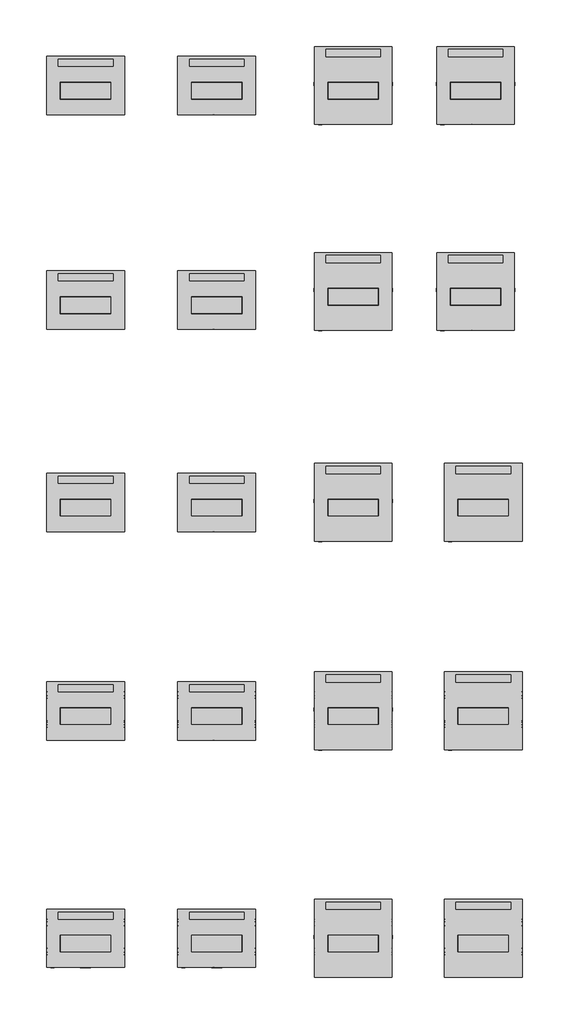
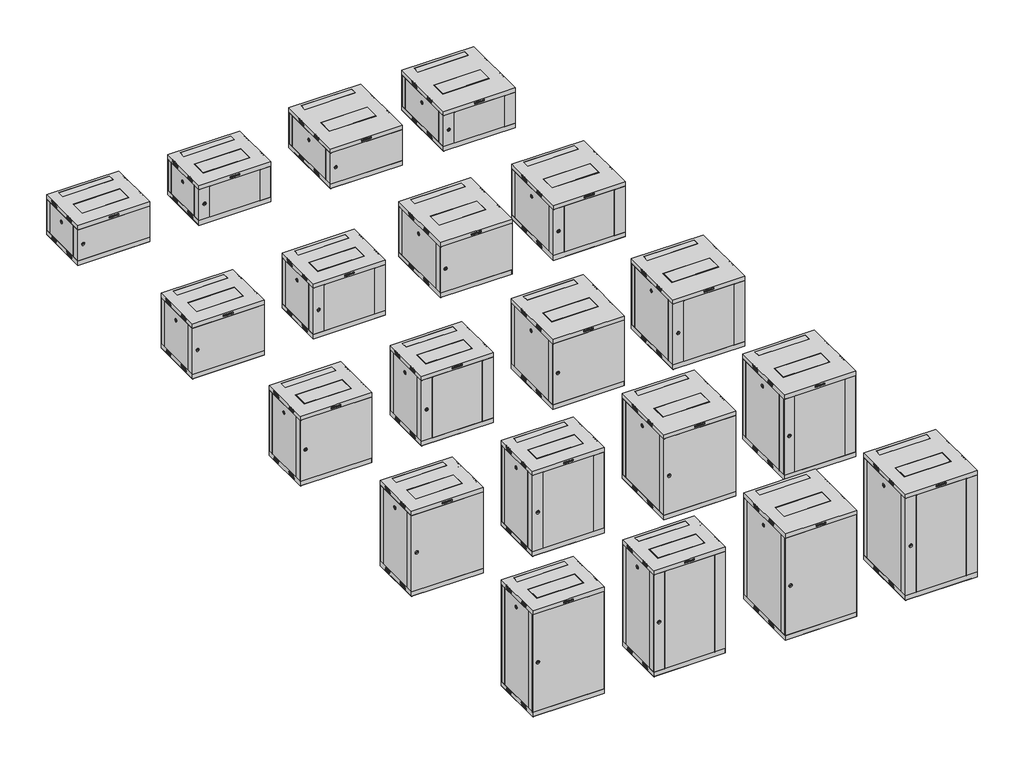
# One storey: 20 proxies.
"""IFC4 building model written with IfcOpenShell, lengths in millimetres."""

from ifc_helpers import new_model, si_unit, origin, place, context, project, spatial, transform, mapped, element, save
from components import proxy_1_32729e6a, proxy_1_935bc356, proxy_1_dae487cf, proxy_1_e7a79305, proxy_1_51f37a2a, proxy_1_433dcf03, proxy_1_57a666f4, proxy_1_a4bd9ef0, proxy_1_876da3fd, proxy_1_7a480675, proxy_1_70eedf67, proxy_1_b26e7d1d, proxy_1_5992bfdd, proxy_1_c254fbed, proxy_1_63ddd125, proxy_1_154220bf, proxy_1_e45873d3, proxy_1_0199d2f3, proxy_1_868d94a2, proxy_1_adbcd2c0, proxy_1_e2e02f15, proxy_1_e55c0a81, proxy_1_a0e742fd, proxy_1_d2b752e0, proxy_1_6b43263f, proxy_1_fa444788, proxy_1_4c299d8e, proxy_1_6cf0ba76, proxy_1_220757b3, proxy_1_0866ba5f, proxy_1_d8c2c919, proxy_1_49b35c16, proxy_1_970add65, proxy_1_ad02ab2c, proxy_1_61d2d121, proxy_1_24a5b86d, proxy_1_d1b3fc70, proxy_1_1176372e, proxy_1_97165bea, proxy_1_086fdbe6, proxy_1_53d06270, proxy_1_87e82789, proxy_1_bff867b1, proxy_1_363f3566, proxy_1_fbcb8cc0, proxy_1_44ba977f, proxy_1_5aa67179, proxy_1_f0d522ef, proxy_1_fc4ee2fe, proxy_1_55a6360b, proxy_1_bb6865f0, proxy_1_869947a7

model = new_model("IFC4")

# Units and contexts
model_context = context("Model", 3, world=origin())
ifc_project = project(units=[si_unit("LENGTHUNIT", "METRE", prefix="MILLI")], contexts=[model_context])

# Site, building, storey
site = spatial("IfcSite", under=ifc_project)
building = spatial("IfcBuilding", under=site)
storey = spatial("IfcBuildingStorey", under=building, Name="Уровень 1", Elevation=0.0)

# Proxies
placement = place(None, origin())
proxy_1_shape = proxy_1_32729e6a(model_context)
proxy_1_2_shape = proxy_1_935bc356(model_context)
proxy_1_3_shape = proxy_1_dae487cf(model_context)
proxy_1_4_shape = proxy_1_e7a79305(model_context)
element("IfcBuildingElementProxy", 1, Name="1 : 6U 450мм стеклянная дверь", ObjectType="1 : 6U 450мм стеклянная дверь", at=placement, inside=storey, context=model_context, shape_type="MappedRepresentation", body=[
    mapped(proxy_1_shape, transform((-16851.4008887, 12894.6541422, 0.0), x_axis=(1.0, 0.0, 0.0), y_axis=(0.0, 1.0, 0.0), z_axis=(0.0, 0.0, 1.0))),
    mapped(proxy_1_2_shape, transform((-16851.4008887, 12894.6541422, 0.0), x_axis=(1.0, 0.0, 0.0), y_axis=(0.0, 1.0, 0.0), z_axis=(0.0, 0.0, 1.0))),
    mapped(proxy_1_3_shape, transform((-16851.4008887, 12894.6541422, 0.0), x_axis=(1.0, 0.0, 0.0), y_axis=(0.0, 1.0, 0.0), z_axis=(0.0, 0.0, 1.0))),
    mapped(proxy_1_4_shape, transform((-16851.4008887, 12894.6541422, 0.0), x_axis=(1.0, 0.0, 0.0), y_axis=(0.0, 1.0, 0.0), z_axis=(0.0, 0.0, 1.0))),
])
proxy_1_5_shape = proxy_1_51f37a2a(model_context)
proxy_1_6_shape = proxy_1_433dcf03(model_context)
proxy_1_7_shape = proxy_1_57a666f4(model_context)
element("IfcBuildingElementProxy", 2, Name="1 : 9U 450мм стеклянная дверь", ObjectType="1 : 9U 450мм стеклянная дверь", at=placement, inside=storey, context=model_context, shape_type="MappedRepresentation", body=[
    mapped(proxy_1_5_shape, transform((-16851.4008887, 11238.6763632, 0.0), x_axis=(1.0, 0.0, 0.0), y_axis=(0.0, 1.0, 0.0), z_axis=(0.0, 0.0, 1.0))),
    mapped(proxy_1_2_shape, transform((-16851.4008887, 11238.6763632, 0.0), x_axis=(1.0, 0.0, 0.0), y_axis=(0.0, 1.0, 0.0), z_axis=(0.0, 0.0, 1.0))),
    mapped(proxy_1_6_shape, transform((-16851.4008887, 11238.6763632, 0.0), x_axis=(1.0, 0.0, 0.0), y_axis=(0.0, 1.0, 0.0), z_axis=(0.0, 0.0, 1.0))),
    mapped(proxy_1_7_shape, transform((-16851.4008887, 11238.6763632, 0.0), x_axis=(1.0, 0.0, 0.0), y_axis=(0.0, 1.0, 0.0), z_axis=(0.0, 0.0, 1.0))),
])
proxy_1_8_shape = proxy_1_a4bd9ef0(model_context)
proxy_1_9_shape = proxy_1_876da3fd(model_context)
proxy_1_10_shape = proxy_1_7a480675(model_context)
element("IfcBuildingElementProxy", 3, Name="1 : 12U 450мм стеклянная дверь", ObjectType="1 : 12U 450мм стеклянная дверь", at=placement, inside=storey, context=model_context, shape_type="MappedRepresentation", body=[
    mapped(proxy_1_8_shape, transform((-16851.4008887, 9676.9744074, 0.0), x_axis=(1.0, 0.0, 0.0), y_axis=(0.0, 1.0, 0.0), z_axis=(0.0, 0.0, 1.0))),
    mapped(proxy_1_2_shape, transform((-16851.4008887, 9676.9744074, 0.0), x_axis=(1.0, 0.0, 0.0), y_axis=(0.0, 1.0, 0.0), z_axis=(0.0, 0.0, 1.0))),
    mapped(proxy_1_9_shape, transform((-16851.4008887, 9676.9744074, 0.0), x_axis=(1.0, 0.0, 0.0), y_axis=(0.0, 1.0, 0.0), z_axis=(0.0, 0.0, 1.0))),
    mapped(proxy_1_10_shape, transform((-16851.4008887, 9676.9744074, 0.0), x_axis=(1.0, 0.0, 0.0), y_axis=(0.0, 1.0, 0.0), z_axis=(0.0, 0.0, 1.0))),
])
proxy_1_11_shape = proxy_1_70eedf67(model_context)
proxy_1_12_shape = proxy_1_b26e7d1d(model_context)
proxy_1_13_shape = proxy_1_5992bfdd(model_context)
element("IfcBuildingElementProxy", 4, Name="1 : 15U 450мм стеклянная дверь", ObjectType="1 : 15U 450мм стеклянная дверь", at=placement, inside=storey, context=model_context, shape_type="MappedRepresentation", body=[
    mapped(proxy_1_11_shape, transform((-16851.4008887, 8067.9532801, 0.0), x_axis=(1.0, 0.0, 0.0), y_axis=(0.0, 1.0, 0.0), z_axis=(0.0, 0.0, 1.0))),
    mapped(proxy_1_2_shape, transform((-16851.4008887, 8067.9532801, 0.0), x_axis=(1.0, 0.0, 0.0), y_axis=(0.0, 1.0, 0.0), z_axis=(0.0, 0.0, 1.0))),
    mapped(proxy_1_12_shape, transform((-16851.4008887, 8067.9532801, 0.0), x_axis=(1.0, 0.0, 0.0), y_axis=(0.0, 1.0, 0.0), z_axis=(0.0, 0.0, 1.0))),
    mapped(proxy_1_13_shape, transform((-16851.4008887, 8067.9532801, 0.0), x_axis=(1.0, 0.0, 0.0), y_axis=(0.0, 1.0, 0.0), z_axis=(0.0, 0.0, 1.0))),
])
proxy_1_14_shape = proxy_1_c254fbed(model_context)
proxy_1_15_shape = proxy_1_63ddd125(model_context)
proxy_1_16_shape = proxy_1_154220bf(model_context)
element("IfcBuildingElementProxy", 5, Name="1 : 18U 450мм стеклянная дверь", ObjectType="1 : 18U 450мм стеклянная дверь", at=placement, inside=storey, context=model_context, shape_type="MappedRepresentation", body=[
    mapped(proxy_1_14_shape, transform((-16851.4008887, 6312.8896212, 0.0), x_axis=(1.0, 0.0, 0.0), y_axis=(0.0, 1.0, 0.0), z_axis=(0.0, 0.0, 1.0))),
    mapped(proxy_1_2_shape, transform((-16851.4008887, 6312.8896212, 0.0), x_axis=(1.0, 0.0, 0.0), y_axis=(0.0, 1.0, 0.0), z_axis=(0.0, 0.0, 1.0))),
    mapped(proxy_1_15_shape, transform((-16851.4008887, 6312.8896212, 0.0), x_axis=(1.0, 0.0, 0.0), y_axis=(0.0, 1.0, 0.0), z_axis=(0.0, 0.0, 1.0))),
    mapped(proxy_1_16_shape, transform((-16851.4008887, 6312.8896212, 0.0), x_axis=(1.0, 0.0, 0.0), y_axis=(0.0, 1.0, 0.0), z_axis=(0.0, 0.0, 1.0))),
])
proxy_1_17_shape = proxy_1_e45873d3(model_context)
proxy_1_18_shape = proxy_1_0199d2f3(model_context)
proxy_1_19_shape = proxy_1_868d94a2(model_context)
proxy_1_20_shape = proxy_1_adbcd2c0(model_context)
element("IfcBuildingElementProxy", 6, Name="1 : 9U 600мм стеклянная дверь", ObjectType="1 : 9U 600мм стеклянная дверь", at=placement, inside=storey, context=model_context, shape_type="MappedRepresentation", body=[
    mapped(proxy_1_17_shape, transform((-14852.0101286, 11305.0593321, 0.0), x_axis=(1.0, 0.0, 0.0), y_axis=(0.0, 1.0, 0.0), z_axis=(0.0, 0.0, 1.0))),
    mapped(proxy_1_18_shape, transform((-14852.0101286, 11305.0593321, 0.0), x_axis=(1.0, 0.0, 0.0), y_axis=(0.0, 1.0, 0.0), z_axis=(0.0, 0.0, 1.0))),
    mapped(proxy_1_19_shape, transform((-14852.0101286, 11305.0593321, 0.0), x_axis=(1.0, 0.0, 0.0), y_axis=(0.0, 1.0, 0.0), z_axis=(0.0, 0.0, 1.0))),
    mapped(proxy_1_20_shape, transform((-14852.0101286, 11305.0593321, 0.0), x_axis=(1.0, 0.0, 0.0), y_axis=(0.0, 1.0, 0.0), z_axis=(0.0, 0.0, 1.0))),
])
proxy_1_21_shape = proxy_1_e2e02f15(model_context)
proxy_1_22_shape = proxy_1_e55c0a81(model_context)
proxy_1_23_shape = proxy_1_a0e742fd(model_context)
element("IfcBuildingElementProxy", 7, Name="1 : 6U 600мм стеклянная дверь", ObjectType="1 : 6U 600мм стеклянная дверь", at=placement, inside=storey, context=model_context, shape_type="MappedRepresentation", body=[
    mapped(proxy_1_21_shape, transform((-14852.0101286, 12894.6541422, 0.0), x_axis=(1.0, 0.0, 0.0), y_axis=(0.0, 1.0, 0.0), z_axis=(0.0, 0.0, 1.0))),
    mapped(proxy_1_18_shape, transform((-14852.0101286, 12894.6541422, 0.0), x_axis=(1.0, 0.0, 0.0), y_axis=(0.0, 1.0, 0.0), z_axis=(0.0, 0.0, 1.0))),
    mapped(proxy_1_22_shape, transform((-14852.0101286, 12894.6541422, 0.0), x_axis=(1.0, 0.0, 0.0), y_axis=(0.0, 1.0, 0.0), z_axis=(0.0, 0.0, 1.0))),
    mapped(proxy_1_23_shape, transform((-14852.0101286, 12894.6541422, 0.0), x_axis=(1.0, 0.0, 0.0), y_axis=(0.0, 1.0, 0.0), z_axis=(0.0, 0.0, 1.0))),
])
proxy_1_24_shape = proxy_1_d2b752e0(model_context)
proxy_1_25_shape = proxy_1_6b43263f(model_context)
proxy_1_26_shape = proxy_1_fa444788(model_context)
element("IfcBuildingElementProxy", 8, Name="1 : 12U 600мм стеклянная дверь", ObjectType="1 : 12U 600мм стеклянная дверь", at=placement, inside=storey, context=model_context, shape_type="MappedRepresentation", body=[
    mapped(proxy_1_24_shape, transform((-14792.2654566, 9676.9744074, 0.0), x_axis=(1.0, 0.0, 0.0), y_axis=(0.0, 1.0, 0.0), z_axis=(0.0, 0.0, 1.0))),
    mapped(proxy_1_18_shape, transform((-14792.2654566, 9676.9744074, 0.0), x_axis=(1.0, 0.0, 0.0), y_axis=(0.0, 1.0, 0.0), z_axis=(0.0, 0.0, 1.0))),
    mapped(proxy_1_25_shape, transform((-14792.2654566, 9676.9744074, 0.0), x_axis=(1.0, 0.0, 0.0), y_axis=(0.0, 1.0, 0.0), z_axis=(0.0, 0.0, 1.0))),
    mapped(proxy_1_26_shape, transform((-14792.2654566, 9676.9744074, 0.0), x_axis=(1.0, 0.0, 0.0), y_axis=(0.0, 1.0, 0.0), z_axis=(0.0, 0.0, 1.0))),
])
proxy_1_27_shape = proxy_1_4c299d8e(model_context)
proxy_1_28_shape = proxy_1_6cf0ba76(model_context)
proxy_1_29_shape = proxy_1_220757b3(model_context)
element("IfcBuildingElementProxy", 9, Name="1 : 15U 600мм стеклянная дверь", ObjectType="1 : 15U 600мм стеклянная дверь", at=placement, inside=storey, context=model_context, shape_type="MappedRepresentation", body=[
    mapped(proxy_1_27_shape, transform((-14792.2654566, 8067.9532801, 0.0), x_axis=(1.0, 0.0, 0.0), y_axis=(0.0, 1.0, 0.0), z_axis=(0.0, 0.0, 1.0))),
    mapped(proxy_1_18_shape, transform((-14792.2654566, 8067.9532801, 0.0), x_axis=(1.0, 0.0, 0.0), y_axis=(0.0, 1.0, 0.0), z_axis=(0.0, 0.0, 1.0))),
    mapped(proxy_1_28_shape, transform((-14792.2654566, 8067.9532801, 0.0), x_axis=(1.0, 0.0, 0.0), y_axis=(0.0, 1.0, 0.0), z_axis=(0.0, 0.0, 1.0))),
    mapped(proxy_1_29_shape, transform((-14792.2654566, 8067.9532801, 0.0), x_axis=(1.0, 0.0, 0.0), y_axis=(0.0, 1.0, 0.0), z_axis=(0.0, 0.0, 1.0))),
])
proxy_1_30_shape = proxy_1_0866ba5f(model_context)
proxy_1_31_shape = proxy_1_d8c2c919(model_context)
proxy_1_32_shape = proxy_1_49b35c16(model_context)
element("IfcBuildingElementProxy", 10, Name="1 : 18U 600мм стеклянная дверь", ObjectType="1 : 18U 600мм стеклянная дверь", at=placement, inside=storey, context=model_context, shape_type="MappedRepresentation", body=[
    mapped(proxy_1_30_shape, transform((-14792.2654566, 6312.8896212, 0.0), x_axis=(1.0, 0.0, 0.0), y_axis=(0.0, 1.0, 0.0), z_axis=(0.0, 0.0, 1.0))),
    mapped(proxy_1_18_shape, transform((-14792.2654566, 6312.8896212, 0.0), x_axis=(1.0, 0.0, 0.0), y_axis=(0.0, 1.0, 0.0), z_axis=(0.0, 0.0, 1.0))),
    mapped(proxy_1_31_shape, transform((-14792.2654566, 6312.8896212, 0.0), x_axis=(1.0, 0.0, 0.0), y_axis=(0.0, 1.0, 0.0), z_axis=(0.0, 0.0, 1.0))),
    mapped(proxy_1_32_shape, transform((-14792.2654566, 6312.8896212, 0.0), x_axis=(1.0, 0.0, 0.0), y_axis=(0.0, 1.0, 0.0), z_axis=(0.0, 0.0, 1.0))),
])
proxy_1_33_shape = proxy_1_970add65(model_context)
proxy_1_34_shape = proxy_1_ad02ab2c(model_context)
element("IfcBuildingElementProxy", 11, Name="1 : 12U 450мм металлическая дверь", ObjectType="1 : 12U 450мм металлическая дверь", at=placement, inside=storey, context=model_context, shape_type="MappedRepresentation", body=[
    mapped(proxy_1_33_shape, transform((-17863.6249665, 9676.9744074, 0.0), x_axis=(1.0, 0.0, 0.0), y_axis=(0.0, 1.0, 0.0), z_axis=(0.0, 0.0, 1.0))),
    mapped(proxy_1_2_shape, transform((-17863.6249665, 9676.9744074, 0.0), x_axis=(1.0, 0.0, 0.0), y_axis=(0.0, 1.0, 0.0), z_axis=(0.0, 0.0, 1.0))),
    mapped(proxy_1_9_shape, transform((-17863.6249665, 9676.9744074, 0.0), x_axis=(1.0, 0.0, 0.0), y_axis=(0.0, 1.0, 0.0), z_axis=(0.0, 0.0, 1.0))),
    mapped(proxy_1_34_shape, transform((-17863.6249665, 9676.9744074, 0.0), x_axis=(1.0, 0.0, 0.0), y_axis=(0.0, 1.0, 0.0), z_axis=(0.0, 0.0, 1.0))),
])
proxy_1_35_shape = proxy_1_61d2d121(model_context)
proxy_1_36_shape = proxy_1_24a5b86d(model_context)
element("IfcBuildingElementProxy", 12, Name="1 : 12U 600мм металлическая дверь", ObjectType="1 : 12U 600мм металлическая дверь", at=placement, inside=storey, context=model_context, shape_type="MappedRepresentation", body=[
    mapped(proxy_1_35_shape, transform((-15796.5939819, 9676.9744074, 0.0), x_axis=(1.0, 0.0, 0.0), y_axis=(0.0, 1.0, 0.0), z_axis=(0.0, 0.0, 1.0))),
    mapped(proxy_1_18_shape, transform((-15796.5939819, 9676.9744074, 0.0), x_axis=(1.0, 0.0, 0.0), y_axis=(0.0, 1.0, 0.0), z_axis=(0.0, 0.0, 1.0))),
    mapped(proxy_1_25_shape, transform((-15796.5939819, 9676.9744074, 0.0), x_axis=(1.0, 0.0, 0.0), y_axis=(0.0, 1.0, 0.0), z_axis=(0.0, 0.0, 1.0))),
    mapped(proxy_1_36_shape, transform((-15796.5939819, 9676.9744074, 0.0), x_axis=(1.0, 0.0, 0.0), y_axis=(0.0, 1.0, 0.0), z_axis=(0.0, 0.0, 1.0))),
])
proxy_1_37_shape = proxy_1_d1b3fc70(model_context)
proxy_1_38_shape = proxy_1_1176372e(model_context)
element("IfcBuildingElementProxy", 13, Name="1 : 15U 450мм металлическая дверь", ObjectType="1 : 15U 450мм металлическая дверь", at=placement, inside=storey, context=model_context, shape_type="MappedRepresentation", body=[
    mapped(proxy_1_37_shape, transform((-17863.6249665, 8067.9532801, 0.0), x_axis=(1.0, 0.0, 0.0), y_axis=(0.0, 1.0, 0.0), z_axis=(0.0, 0.0, 1.0))),
    mapped(proxy_1_2_shape, transform((-17863.6249665, 8067.9532801, 0.0), x_axis=(1.0, 0.0, 0.0), y_axis=(0.0, 1.0, 0.0), z_axis=(0.0, 0.0, 1.0))),
    mapped(proxy_1_12_shape, transform((-17863.6249665, 8067.9532801, 0.0), x_axis=(1.0, 0.0, 0.0), y_axis=(0.0, 1.0, 0.0), z_axis=(0.0, 0.0, 1.0))),
    mapped(proxy_1_38_shape, transform((-17863.6249665, 8067.9532801, 0.0), x_axis=(1.0, 0.0, 0.0), y_axis=(0.0, 1.0, 0.0), z_axis=(0.0, 0.0, 1.0))),
])
proxy_1_39_shape = proxy_1_97165bea(model_context)
proxy_1_40_shape = proxy_1_086fdbe6(model_context)
element("IfcBuildingElementProxy", 14, Name="1 : 15U 600мм металлическая дверь", ObjectType="1 : 15U 600мм металлическая дверь", at=placement, inside=storey, context=model_context, shape_type="MappedRepresentation", body=[
    mapped(proxy_1_39_shape, transform((-15796.5939819, 8067.9532801, 0.0), x_axis=(1.0, 0.0, 0.0), y_axis=(0.0, 1.0, 0.0), z_axis=(0.0, 0.0, 1.0))),
    mapped(proxy_1_18_shape, transform((-15796.5939819, 8067.9532801, 0.0), x_axis=(1.0, 0.0, 0.0), y_axis=(0.0, 1.0, 0.0), z_axis=(0.0, 0.0, 1.0))),
    mapped(proxy_1_28_shape, transform((-15796.5939819, 8067.9532801, 0.0), x_axis=(1.0, 0.0, 0.0), y_axis=(0.0, 1.0, 0.0), z_axis=(0.0, 0.0, 1.0))),
    mapped(proxy_1_40_shape, transform((-15796.5939819, 8067.9532801, 0.0), x_axis=(1.0, 0.0, 0.0), y_axis=(0.0, 1.0, 0.0), z_axis=(0.0, 0.0, 1.0))),
])
proxy_1_41_shape = proxy_1_53d06270(model_context)
proxy_1_42_shape = proxy_1_87e82789(model_context)
element("IfcBuildingElementProxy", 15, Name="1 : 18U 450мм металлическая дверь", ObjectType="1 : 18U 450мм металлическая дверь", at=placement, inside=storey, context=model_context, shape_type="MappedRepresentation", body=[
    mapped(proxy_1_41_shape, transform((-17863.6249665, 6312.8896212, 0.0), x_axis=(1.0, 0.0, 0.0), y_axis=(0.0, 1.0, 0.0), z_axis=(0.0, 0.0, 1.0))),
    mapped(proxy_1_2_shape, transform((-17863.6249665, 6312.8896212, 0.0), x_axis=(1.0, 0.0, 0.0), y_axis=(0.0, 1.0, 0.0), z_axis=(0.0, 0.0, 1.0))),
    mapped(proxy_1_15_shape, transform((-17863.6249665, 6312.8896212, 0.0), x_axis=(1.0, 0.0, 0.0), y_axis=(0.0, 1.0, 0.0), z_axis=(0.0, 0.0, 1.0))),
    mapped(proxy_1_42_shape, transform((-17863.6249665, 6312.8896212, 0.0), x_axis=(1.0, 0.0, 0.0), y_axis=(0.0, 1.0, 0.0), z_axis=(0.0, 0.0, 1.0))),
])
proxy_1_43_shape = proxy_1_bff867b1(model_context)
proxy_1_44_shape = proxy_1_363f3566(model_context)
element("IfcBuildingElementProxy", 16, Name="1 : 18U 600мм металлическая дверь", ObjectType="1 : 18U 600мм металлическая дверь", at=placement, inside=storey, context=model_context, shape_type="MappedRepresentation", body=[
    mapped(proxy_1_43_shape, transform((-15796.5939819, 6312.8896212, 0.0), x_axis=(1.0, 0.0, 0.0), y_axis=(0.0, 1.0, 0.0), z_axis=(0.0, 0.0, 1.0))),
    mapped(proxy_1_18_shape, transform((-15796.5939819, 6312.8896212, 0.0), x_axis=(1.0, 0.0, 0.0), y_axis=(0.0, 1.0, 0.0), z_axis=(0.0, 0.0, 1.0))),
    mapped(proxy_1_31_shape, transform((-15796.5939819, 6312.8896212, 0.0), x_axis=(1.0, 0.0, 0.0), y_axis=(0.0, 1.0, 0.0), z_axis=(0.0, 0.0, 1.0))),
    mapped(proxy_1_44_shape, transform((-15796.5939819, 6312.8896212, 0.0), x_axis=(1.0, 0.0, 0.0), y_axis=(0.0, 1.0, 0.0), z_axis=(0.0, 0.0, 1.0))),
])
proxy_1_45_shape = proxy_1_fbcb8cc0(model_context)
proxy_1_46_shape = proxy_1_44ba977f(model_context)
element("IfcBuildingElementProxy", 17, Name="1 : 6U 450мм металлическая дверь", ObjectType="1 : 6U 450мм металлическая дверь", at=placement, inside=storey, context=model_context, shape_type="MappedRepresentation", body=[
    mapped(proxy_1_45_shape, transform((-17863.6249665, 12894.6541422, 0.0), x_axis=(1.0, 0.0, 0.0), y_axis=(0.0, 1.0, 0.0), z_axis=(0.0, 0.0, 1.0))),
    mapped(proxy_1_2_shape, transform((-17863.6249665, 12894.6541422, 0.0), x_axis=(1.0, 0.0, 0.0), y_axis=(0.0, 1.0, 0.0), z_axis=(0.0, 0.0, 1.0))),
    mapped(proxy_1_3_shape, transform((-17863.6249665, 12894.6541422, 0.0), x_axis=(1.0, 0.0, 0.0), y_axis=(0.0, 1.0, 0.0), z_axis=(0.0, 0.0, 1.0))),
    mapped(proxy_1_46_shape, transform((-17863.6249665, 12894.6541422, 0.0), x_axis=(1.0, 0.0, 0.0), y_axis=(0.0, 1.0, 0.0), z_axis=(0.0, 0.0, 1.0))),
])
proxy_1_47_shape = proxy_1_5aa67179(model_context)
proxy_1_48_shape = proxy_1_f0d522ef(model_context)
element("IfcBuildingElementProxy", 18, Name="1 : 6U 600мм металлическая дверь", ObjectType="1 : 6U 600мм металлическая дверь", at=placement, inside=storey, context=model_context, shape_type="MappedRepresentation", body=[
    mapped(proxy_1_47_shape, transform((-15796.5939819, 12894.6541422, 0.0), x_axis=(1.0, 0.0, 0.0), y_axis=(0.0, 1.0, 0.0), z_axis=(0.0, 0.0, 1.0))),
    mapped(proxy_1_18_shape, transform((-15796.5939819, 12894.6541422, 0.0), x_axis=(1.0, 0.0, 0.0), y_axis=(0.0, 1.0, 0.0), z_axis=(0.0, 0.0, 1.0))),
    mapped(proxy_1_22_shape, transform((-15796.5939819, 12894.6541422, 0.0), x_axis=(1.0, 0.0, 0.0), y_axis=(0.0, 1.0, 0.0), z_axis=(0.0, 0.0, 1.0))),
    mapped(proxy_1_48_shape, transform((-15796.5939819, 12894.6541422, 0.0), x_axis=(1.0, 0.0, 0.0), y_axis=(0.0, 1.0, 0.0), z_axis=(0.0, 0.0, 1.0))),
])
proxy_1_49_shape = proxy_1_fc4ee2fe(model_context)
proxy_1_50_shape = proxy_1_55a6360b(model_context)
element("IfcBuildingElementProxy", 19, Name="1 : 9U 450мм металлическая дверь", ObjectType="1 : 9U 450мм металлическая дверь", at=placement, inside=storey, context=model_context, shape_type="MappedRepresentation", body=[
    mapped(proxy_1_49_shape, transform((-17863.6249665, 11238.6763632, 0.0), x_axis=(1.0, 0.0, 0.0), y_axis=(0.0, 1.0, 0.0), z_axis=(0.0, 0.0, 1.0))),
    mapped(proxy_1_2_shape, transform((-17863.6249665, 11238.6763632, 0.0), x_axis=(1.0, 0.0, 0.0), y_axis=(0.0, 1.0, 0.0), z_axis=(0.0, 0.0, 1.0))),
    mapped(proxy_1_6_shape, transform((-17863.6249665, 11238.6763632, 0.0), x_axis=(1.0, 0.0, 0.0), y_axis=(0.0, 1.0, 0.0), z_axis=(0.0, 0.0, 1.0))),
    mapped(proxy_1_50_shape, transform((-17863.6249665, 11238.6763632, 0.0), x_axis=(1.0, 0.0, 0.0), y_axis=(0.0, 1.0, 0.0), z_axis=(0.0, 0.0, 1.0))),
])
proxy_1_51_shape = proxy_1_bb6865f0(model_context)
proxy_1_52_shape = proxy_1_869947a7(model_context)
element("IfcBuildingElementProxy", 20, Name="1 : 9U 600мм металлическая дверь", ObjectType="1 : 9U 600мм металлическая дверь", at=placement, inside=storey, context=model_context, shape_type="MappedRepresentation", body=[
    mapped(proxy_1_51_shape, transform((-15796.5939819, 11305.0593321, 0.0), x_axis=(1.0, 0.0, 0.0), y_axis=(0.0, 1.0, 0.0), z_axis=(0.0, 0.0, 1.0))),
    mapped(proxy_1_18_shape, transform((-15796.5939819, 11305.0593321, 0.0), x_axis=(1.0, 0.0, 0.0), y_axis=(0.0, 1.0, 0.0), z_axis=(0.0, 0.0, 1.0))),
    mapped(proxy_1_19_shape, transform((-15796.5939819, 11305.0593321, 0.0), x_axis=(1.0, 0.0, 0.0), y_axis=(0.0, 1.0, 0.0), z_axis=(0.0, 0.0, 1.0))),
    mapped(proxy_1_52_shape, transform((-15796.5939819, 11305.0593321, 0.0), x_axis=(1.0, 0.0, 0.0), y_axis=(0.0, 1.0, 0.0), z_axis=(0.0, 0.0, 1.0))),
])

save(model, "model.ifc")
